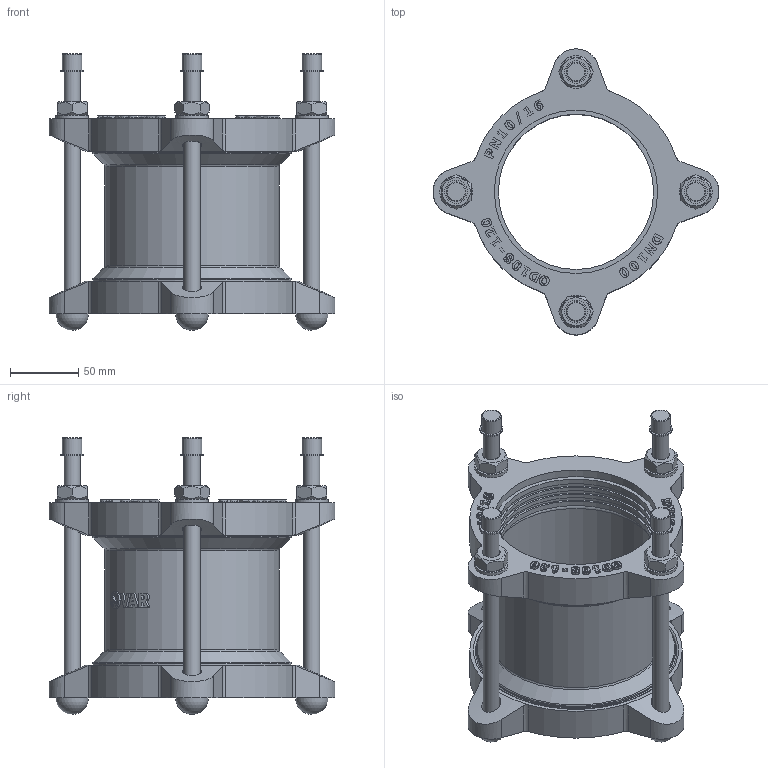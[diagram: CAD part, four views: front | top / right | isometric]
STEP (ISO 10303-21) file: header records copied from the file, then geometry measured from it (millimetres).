
FILE_DESCRIPTION(('STEP AP203'), '1');
FILE_NAME('Cîåäèíèòåëüíàÿ ìóôòà äëÿ æåñòêèõ òðóá', '', ('UNSPECIFIED'), ('UNSPECIFIED'), 'C3D Converter', 'C3D Toolkit', '');
FILE_SCHEMA(('CONFIG_CONTROL_DESIGN'));
Length unit declared in the file: millimetre
Assembly tree (21 placements, depth 2):
  (unnamed)
    (unnamed)
    (unnamed)  x4
    (unnamed)  x4
    (unnamed)  x4
    (unnamed)  x4
    (unnamed)
    (unnamed)
    (unnamed)  x2
Bounding box: 210 x 210 x 203.2 mm (x, y, z)
Volume: 830273.4 mm3; surface area: 308527.4 mm2
Topology: 25 solids, 25 shells, 766 faces, 1915 edges, 1258 vertices
Faces by surface type: extrusion 320, plane 281, cylinder 105, cone 34, torus 22, sphere 4
Full cylindrical faces by diameter (mm): 12 x12, 12.253 x1, 13 x4, 14 x8, 14.4 x4, 16.8 x4, 24 x4, 114 x8, 117 x6, 120 x3, 124 x2, 128 x3, 146 x2, 148 x4
Entity records: 29728 total; most frequent: CARTESIAN_POINT 10309, ORIENTED_EDGE 3298, DIRECTION 2117, EDGE_CURVE 1649, VERTEX_POINT 1128, VECTOR 1073, B_SPLINE_CURVE_WITH_KNOTS 1024, EDGE_LOOP 805
